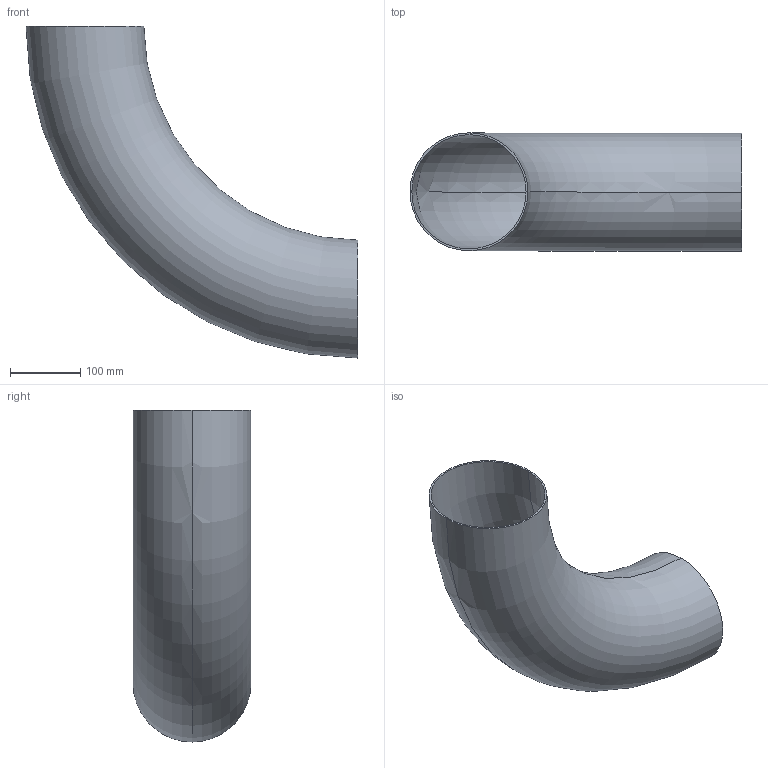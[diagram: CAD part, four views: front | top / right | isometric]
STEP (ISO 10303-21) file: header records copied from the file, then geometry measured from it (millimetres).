
FILE_DESCRIPTION (( 'STEP AP203' ), '1' );
FILE_NAME ('3D_R1655_168.3x2.6_17362350.STEP', '2024-08-05T09:24:41', ( '' ), ( '' ), 'SwSTEP 2.0', 'SolidWorks 2024', '' );
FILE_SCHEMA (( 'CONFIG_CONTROL_DESIGN' ));
Length unit declared in the file: millimetre
Products named in the file (1): 3D_R1655_168.3x2.6_17362350
Bounding box: 474.15 x 168.3 x 474.15 mm (x, y, z)
Volume: 829144.5 mm3; surface area: 640510.4 mm2
Topology: 1 solids, 1 shells, 6 faces, 12 edges, 8 vertices
Faces by surface type: torus 4, plane 2
Entity records: 249 total; most frequent: DIRECTION 38, CARTESIAN_POINT 27, ORIENTED_EDGE 24, AXIS2_PLACEMENT_3D 19, EDGE_CURVE 12, CIRCLE 12, VERTEX_POINT 8, PERSON_AND_ORGANIZATION 8
